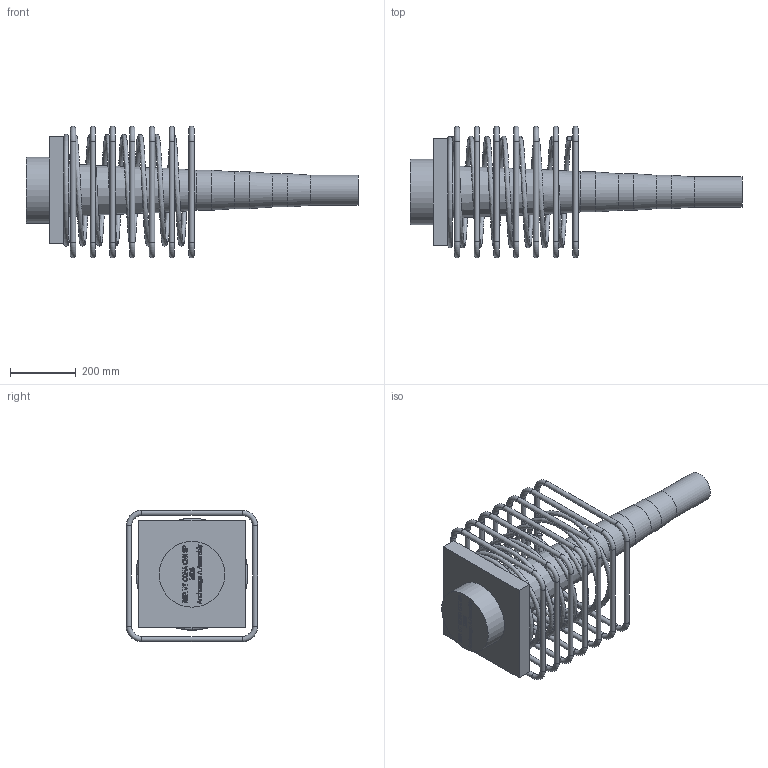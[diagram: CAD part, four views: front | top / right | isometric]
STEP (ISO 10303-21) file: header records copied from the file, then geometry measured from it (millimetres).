
FILE_DESCRIPTION(/* description */ (''),/* implementation_level */ '2;1');
FILE_NAME(/* name */ 'Z:\04 Publications\05 Give-out\BBR\6_3D_Models\BBR VT CONA CMI\BBR VT CONA CMI SP\01606\BBR VT CONA CMI SP 1606_Anchorage A Assembly_CS-34,28.stp',/* time_stamp */ '2017-05-05T15:42:29+02:00',/* author */ ('IP'),/* organization */ (''),/* preprocessor_version */ 'ST-DEVELOPER v16.1',/* originating_system */ 'Autodesk Inventor 2016',/* authorisation */ '');
FILE_SCHEMA (('AUTOMOTIVE_DESIGN { 1 0 10303 214 3 1 1 }'));
Length unit declared in the file: millimetre
Products named in the file (1): BBR VT CONA CMI SP 1606_Anchorage A Assembly_CS-34,28
Bounding box: 1009.1 x 400 x 400 mm (x, y, z)
Volume: 20880550.7 mm3; surface area: 1517159.4 mm2
Topology: 9 solids, 9 shells, 683 faces, 1806 edges, 1183 vertices
Faces by surface type: plane 314, bspline 302, torus 33, cylinder 33, cone 1
Full cylindrical faces by diameter (mm): 16 x28, 91.725 x1, 101.793 x1, 111.862 x1, 121.932 x1, 200 x1
Entity records: 26269 total; most frequent: CARTESIAN_POINT 10915, ORIENTED_EDGE 3480, DIRECTION 1971, EDGE_CURVE 1737, VERTEX_POINT 1181, LINE 1057, VECTOR 1057, EDGE_LOOP 811
